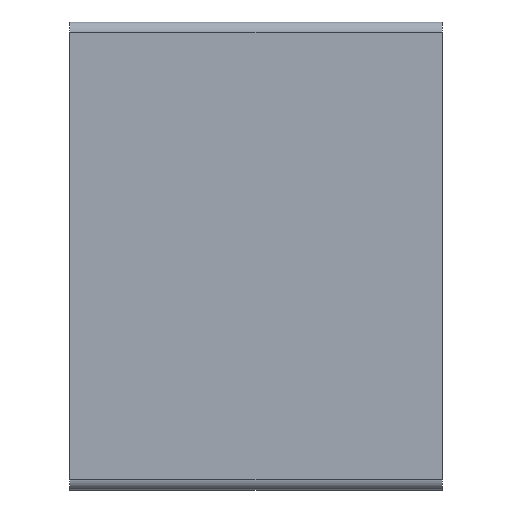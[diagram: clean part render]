
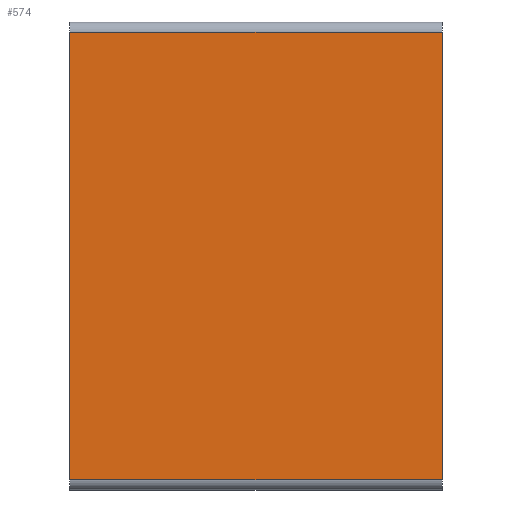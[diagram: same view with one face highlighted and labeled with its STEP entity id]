
A CAD part, left-side view. The second image highlights one B-rep face of the part: STEP entity #574.
In plain terms, the highlighted planar face has unit normal (-1, 0, 0).
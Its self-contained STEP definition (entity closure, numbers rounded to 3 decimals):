
#44 = PLANE('',#45);
#45 = AXIS2_PLACEMENT_3D('',#46,#47,#48);
#46 = CARTESIAN_POINT('',(0.,10.,94.));
#47 = DIRECTION('',(-0.,1.,0.));
#48 = DIRECTION('',(-1.,-0.,-0.));
#72 = CYLINDRICAL_SURFACE('',#73,1.);
#73 = AXIS2_PLACEMENT_3D('',#74,#75,#76);
#74 = CARTESIAN_POINT('',(-11.36,10.,72.39));
#75 = DIRECTION('',(-0.,1.,0.));
#76 = DIRECTION('',(-0.,0.,-1.));
#100 = PLANE('',#101);
#101 = AXIS2_PLACEMENT_3D('',#102,#103,#104);
#102 = CARTESIAN_POINT('',(0.,46.,94.));
#103 = DIRECTION('',(-0.,1.,0.));
#104 = DIRECTION('',(-1.,-0.,-0.));
#260 = VERTEX_POINT('',#261);
#261 = CARTESIAN_POINT('',(-12.36,10.,115.61));
#280 = CYLINDRICAL_SURFACE('',#281,1.);
#281 = AXIS2_PLACEMENT_3D('',#282,#283,#284);
#282 = CARTESIAN_POINT('',(-11.36,10.,115.61));
#283 = DIRECTION('',(-0.,1.,0.));
#284 = DIRECTION('',(0.,0.,1.));
#292 = EDGE_CURVE('',#260,#293,#295,.T.);
#293 = VERTEX_POINT('',#294);
#294 = CARTESIAN_POINT('',(-12.36,10.,72.39));
#295 = SURFACE_CURVE('',#296,(#300,#307),.PCURVE_S1.);
#296 = LINE('',#297,#298);
#297 = CARTESIAN_POINT('',(-12.36,10.,116.61));
#298 = VECTOR('',#299,1.);
#299 = DIRECTION('',(-0.,0.,-1.));
#300 = PCURVE('',#44,#301);
#301 = DEFINITIONAL_REPRESENTATION('',(#302),#306);
#302 = LINE('',#303,#304);
#303 = CARTESIAN_POINT('',(12.36,22.61));
#304 = VECTOR('',#305,1.);
#305 = DIRECTION('',(-0.,-1.));
#306 = ( GEOMETRIC_REPRESENTATION_CONTEXT(2) 
PARAMETRIC_REPRESENTATION_CONTEXT() REPRESENTATION_CONTEXT('2D SPACE',''
  ) );
#307 = PCURVE('',#308,#313);
#308 = PLANE('',#309);
#309 = AXIS2_PLACEMENT_3D('',#310,#311,#312);
#310 = CARTESIAN_POINT('',(-12.36,10.,116.61));
#311 = DIRECTION('',(1.,0.,0.));
#312 = DIRECTION('',(0.,0.,1.));
#313 = DEFINITIONAL_REPRESENTATION('',(#314),#318);
#314 = LINE('',#315,#316);
#315 = CARTESIAN_POINT('',(0.,-0.));
#316 = VECTOR('',#317,1.);
#317 = DIRECTION('',(-1.,0.));
#318 = ( GEOMETRIC_REPRESENTATION_CONTEXT(2) 
PARAMETRIC_REPRESENTATION_CONTEXT() REPRESENTATION_CONTEXT('2D SPACE',''
  ) );
#346 = EDGE_CURVE('',#293,#347,#349,.T.);
#347 = VERTEX_POINT('',#348);
#348 = CARTESIAN_POINT('',(-12.36,46.,72.39));
#349 = SURFACE_CURVE('',#350,(#354,#361),.PCURVE_S1.);
#350 = LINE('',#351,#352);
#351 = CARTESIAN_POINT('',(-12.36,10.,72.39));
#352 = VECTOR('',#353,1.);
#353 = DIRECTION('',(-0.,1.,0.));
#354 = PCURVE('',#72,#355);
#355 = DEFINITIONAL_REPRESENTATION('',(#356),#360);
#356 = LINE('',#357,#358);
#357 = CARTESIAN_POINT('',(1.571,0.));
#358 = VECTOR('',#359,1.);
#359 = DIRECTION('',(0.,1.));
#360 = ( GEOMETRIC_REPRESENTATION_CONTEXT(2) 
PARAMETRIC_REPRESENTATION_CONTEXT() REPRESENTATION_CONTEXT('2D SPACE',''
  ) );
#361 = PCURVE('',#308,#362);
#362 = DEFINITIONAL_REPRESENTATION('',(#363),#367);
#363 = LINE('',#364,#365);
#364 = CARTESIAN_POINT('',(-44.22,0.));
#365 = VECTOR('',#366,1.);
#366 = DIRECTION('',(-0.,-1.));
#367 = ( GEOMETRIC_REPRESENTATION_CONTEXT(2) 
PARAMETRIC_REPRESENTATION_CONTEXT() REPRESENTATION_CONTEXT('2D SPACE',''
  ) );
#526 = VERTEX_POINT('',#527);
#527 = CARTESIAN_POINT('',(-12.36,46.,115.61));
#553 = EDGE_CURVE('',#526,#347,#554,.T.);
#554 = SURFACE_CURVE('',#555,(#559,#566),.PCURVE_S1.);
#555 = LINE('',#556,#557);
#556 = CARTESIAN_POINT('',(-12.36,46.,116.61));
#557 = VECTOR('',#558,1.);
#558 = DIRECTION('',(-0.,0.,-1.));
#559 = PCURVE('',#100,#560);
#560 = DEFINITIONAL_REPRESENTATION('',(#561),#565);
#561 = LINE('',#562,#563);
#562 = CARTESIAN_POINT('',(12.36,22.61));
#563 = VECTOR('',#564,1.);
#564 = DIRECTION('',(-0.,-1.));
#565 = ( GEOMETRIC_REPRESENTATION_CONTEXT(2) 
PARAMETRIC_REPRESENTATION_CONTEXT() REPRESENTATION_CONTEXT('2D SPACE',''
  ) );
#566 = PCURVE('',#308,#567);
#567 = DEFINITIONAL_REPRESENTATION('',(#568),#572);
#568 = LINE('',#569,#570);
#569 = CARTESIAN_POINT('',(0.,-36.));
#570 = VECTOR('',#571,1.);
#571 = DIRECTION('',(-1.,0.));
#572 = ( GEOMETRIC_REPRESENTATION_CONTEXT(2) 
PARAMETRIC_REPRESENTATION_CONTEXT() REPRESENTATION_CONTEXT('2D SPACE',''
  ) );
#574 = ADVANCED_FACE('',(#575),#308,.F.);
#575 = FACE_BOUND('',#576,.T.);
#576 = EDGE_LOOP('',(#577,#578,#599,#600));
#577 = ORIENTED_EDGE('',*,*,#292,.F.);
#578 = ORIENTED_EDGE('',*,*,#579,.T.);
#579 = EDGE_CURVE('',#260,#526,#580,.T.);
#580 = SURFACE_CURVE('',#581,(#585,#592),.PCURVE_S1.);
#581 = LINE('',#582,#583);
#582 = CARTESIAN_POINT('',(-12.36,10.,115.61));
#583 = VECTOR('',#584,1.);
#584 = DIRECTION('',(-0.,1.,0.));
#585 = PCURVE('',#308,#586);
#586 = DEFINITIONAL_REPRESENTATION('',(#587),#591);
#587 = LINE('',#588,#589);
#588 = CARTESIAN_POINT('',(-1.,0.));
#589 = VECTOR('',#590,1.);
#590 = DIRECTION('',(-0.,-1.));
#591 = ( GEOMETRIC_REPRESENTATION_CONTEXT(2) 
PARAMETRIC_REPRESENTATION_CONTEXT() REPRESENTATION_CONTEXT('2D SPACE',''
  ) );
#592 = PCURVE('',#280,#593);
#593 = DEFINITIONAL_REPRESENTATION('',(#594),#598);
#594 = LINE('',#595,#596);
#595 = CARTESIAN_POINT('',(-1.571,0.));
#596 = VECTOR('',#597,1.);
#597 = DIRECTION('',(-0.,1.));
#598 = ( GEOMETRIC_REPRESENTATION_CONTEXT(2) 
PARAMETRIC_REPRESENTATION_CONTEXT() REPRESENTATION_CONTEXT('2D SPACE',''
  ) );
#599 = ORIENTED_EDGE('',*,*,#553,.T.);
#600 = ORIENTED_EDGE('',*,*,#346,.F.);
